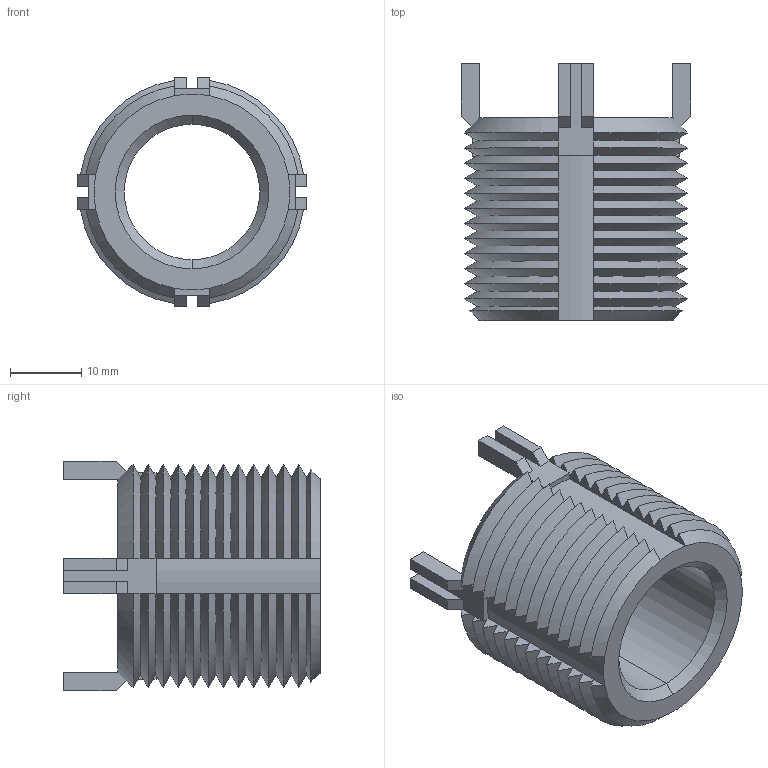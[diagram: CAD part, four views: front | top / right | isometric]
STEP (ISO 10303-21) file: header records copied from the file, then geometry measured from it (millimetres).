
FILE_DESCRIPTION (( 'STEP AP203' ), '1' );
FILE_NAME ('22024.W5410.step', '2020-01-04T21:59:15', ( '' ), ( '' ), 'SwSTEP 2.0', 'SolidWorks 2017', '' );
FILE_SCHEMA (( 'CONFIG_CONTROL_DESIGN' ));
Length unit declared in the file: millimetre
Products named in the file (1): 22024.W5410
Bounding box: 32.26 x 36.1 x 32.26 mm (x, y, z)
Volume: 11458.1 mm3; surface area: 7731.1 mm2
Topology: 1 solids, 1 shells, 204 faces, 546 edges, 344 vertices
Faces by surface type: cone 108, plane 90, cylinder 6
Entity records: 6639 total; most frequent: CARTESIAN_POINT 1875, ORIENTED_EDGE 1092, DIRECTION 832, EDGE_CURVE 546, VERTEX_POINT 344, AXIS2_PLACEMENT_3D 329, B_SPLINE_CURVE_WITH_KNOTS 248, EDGE_LOOP 206
